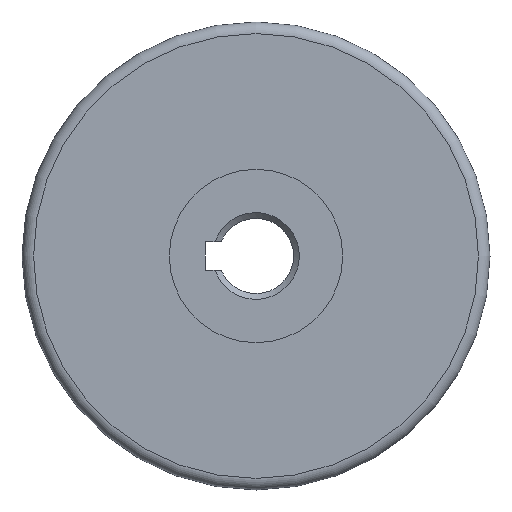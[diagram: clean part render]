
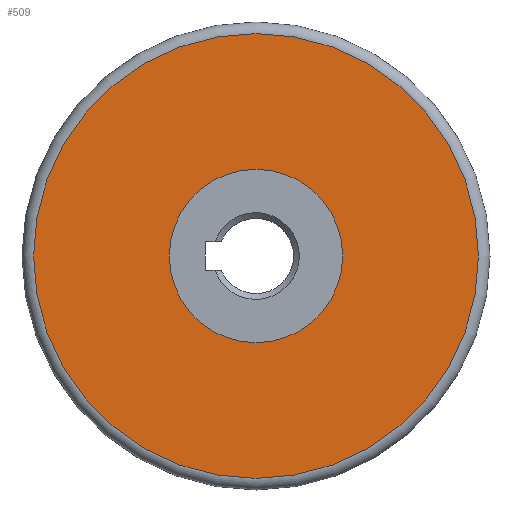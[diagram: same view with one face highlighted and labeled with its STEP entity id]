
A CAD part, left-side view. The second image highlights one B-rep face of the part: STEP entity #509.
In plain terms, the highlighted planar face has unit normal (-1, 0, 0).
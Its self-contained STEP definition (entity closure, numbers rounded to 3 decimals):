
#36=FACE_BOUND('',#131,.T.);
#85=PLANE('',#573);
#97=FACE_OUTER_BOUND('',#130,.T.);
#130=EDGE_LOOP('',(#384));
#131=EDGE_LOOP('',(#385));
#160=CIRCLE('',#572,15.);
#161=CIRCLE('',#574,38.5);
#223=VERTEX_POINT('',#884);
#224=VERTEX_POINT('',#888);
#282=EDGE_CURVE('',#223,#223,#160,.T.);
#284=EDGE_CURVE('',#224,#224,#161,.T.);
#384=ORIENTED_EDGE('',*,*,#284,.F.);
#385=ORIENTED_EDGE('',*,*,#282,.T.);
#509=ADVANCED_FACE('',(#97,#36),#85,.T.);
#572=AXIS2_PLACEMENT_3D('',#885,#691,#692);
#573=AXIS2_PLACEMENT_3D('',#887,#694,#695);
#574=AXIS2_PLACEMENT_3D('',#889,#696,#697);
#691=DIRECTION('center_axis',(1.,0.,0.));
#692=DIRECTION('ref_axis',(0.,0.,-1.));
#694=DIRECTION('center_axis',(-1.,0.,0.));
#695=DIRECTION('ref_axis',(0.,0.,1.));
#696=DIRECTION('center_axis',(1.,0.,0.));
#697=DIRECTION('ref_axis',(0.,0.,-1.));
#884=CARTESIAN_POINT('',(10.,-15.,0.));
#885=CARTESIAN_POINT('Origin',(10.,0.,0.));
#887=CARTESIAN_POINT('Origin',(10.,38.5,0.));
#888=CARTESIAN_POINT('',(10.,0.,38.5));
#889=CARTESIAN_POINT('Origin',(10.,0.,0.));
